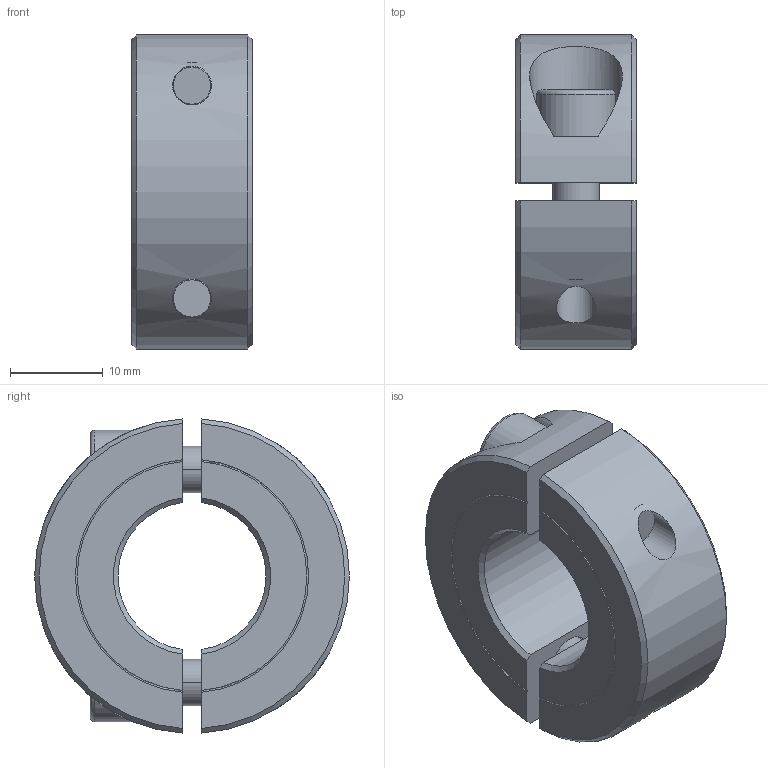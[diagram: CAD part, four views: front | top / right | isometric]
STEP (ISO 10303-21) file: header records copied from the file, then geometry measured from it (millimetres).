
FILE_DESCRIPTION((''),'2;1');
FILE_NAME('131-600-0016_ASM','2013-12-20T',('Brieden'),('brieden'),'PRO/ENGINEER BY PARAMETRIC TECHNOLOGY CORPORATION, 2005030','PRO/ENGINEER BY PARAMETRIC TECHNOLOGY CORPORATION, 2005030','');
FILE_SCHEMA(('AUTOMOTIVE_DESIGN_CC2 { 1 2 10303 214 -1 1 5 2 }'));
Length unit declared in the file: millimetre
Products named in the file (4): 131-600-0016-DB_PRT; 131-600-0016-TH_PRT; D912-M5X16_PRT; 131-600-0016_ASM
Assembly tree (4 placements, depth 2):
  131-600-0016_ASM
    131-600-0016-DB_PRT
    131-600-0016-TH_PRT
    D912-M5X16_PRT  x2
Bounding box: 13 x 34 x 33.94 mm (x, y, z)
Volume: 8315.8 mm3; surface area: 5291 mm2
Topology: 4 solids, 4 shells, 94 faces, 214 edges, 136 vertices
Faces by surface type: plane 34, cylinder 26, cone 20, torus 14
Entity records: 2296 total; most frequent: CARTESIAN_POINT 595, DIRECTION 348, ORIENTED_EDGE 312, EDGE_CURVE 156, AXIS2_PLACEMENT_3D 143, VERTEX_POINT 100, EDGE_LOOP 80, CIRCLE 68
